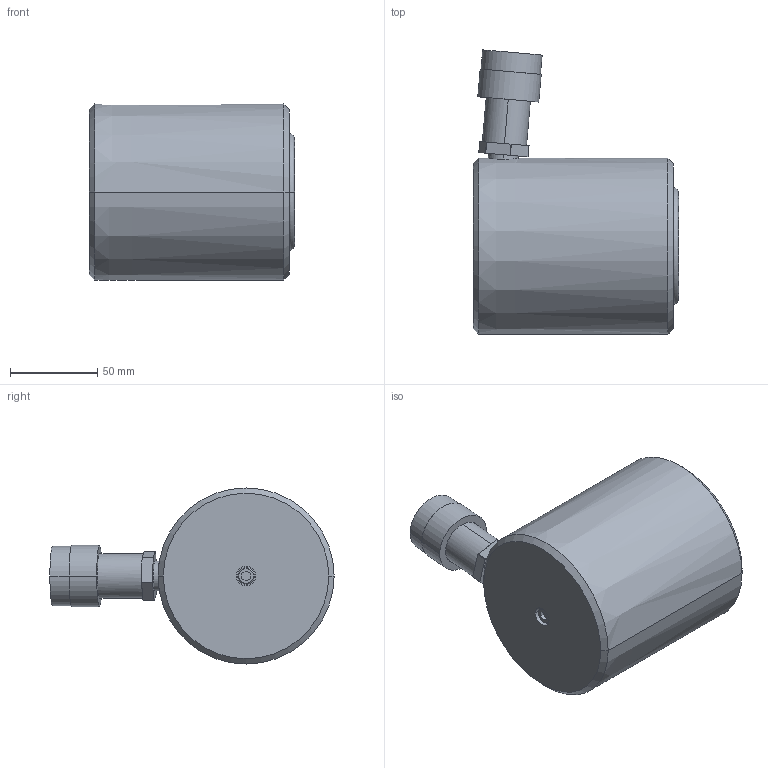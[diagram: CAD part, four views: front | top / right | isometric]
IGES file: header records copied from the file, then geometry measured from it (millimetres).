
Start section:  PTC IGES file: rcs302.igs
Global section: file name: rcs302.igs; native system: Creo Parametric by PTC Inc.; preprocessor: 2015290; author: mike.ward; organization: Unknown; date: 20171106.075715; units: inch
Bounding box: 117.35 x 162.54 x 100.71 mm (x, y, z)
Volume: 938606.2 mm3; surface area: 75380.6 mm2
Topology: 1 solids, 4 shells, 172 faces, 374 edges, 231 vertices
Faces by surface type: revolution 115, bspline 57
